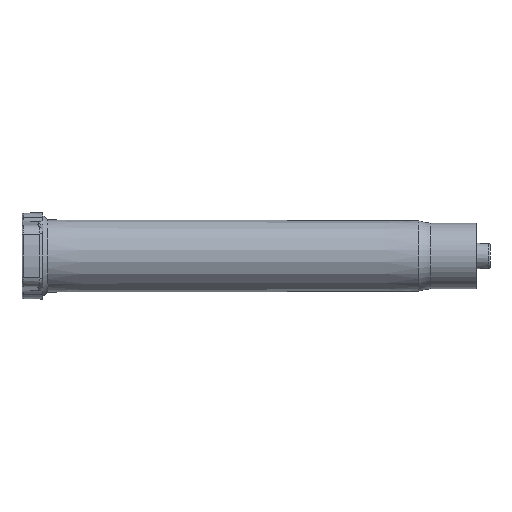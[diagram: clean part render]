
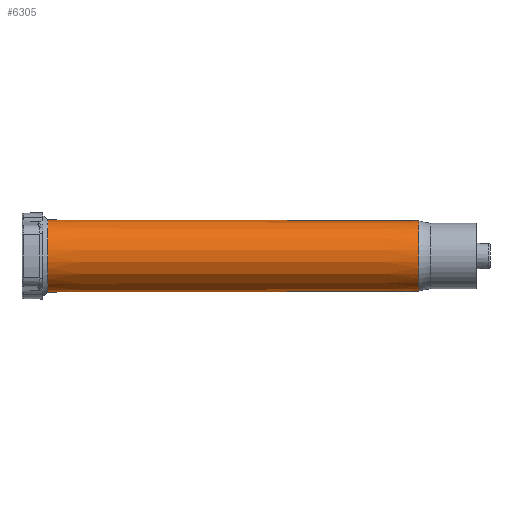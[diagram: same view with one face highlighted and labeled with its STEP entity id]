
A CAD part, front view. The second image highlights one B-rep face of the part: STEP entity #6305.
In plain terms, the highlighted conical face has half-angle 0.096 degrees and reference radius 5.65 mm.
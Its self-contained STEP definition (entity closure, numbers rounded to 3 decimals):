
#61 = EDGE_CURVE ( 'NONE', #7417, #8526, #7459, .T. ) ;
#63 = LINE ( 'NONE', #2845, #6242 ) ;
#712 = DIRECTION ( 'NONE',  ( -1., 0., -0.002 ) ) ;
#1568 = ORIENTED_EDGE ( 'NONE', *, *, #4882, .F. ) ;
#1742 = CARTESIAN_POINT ( 'NONE',  ( 4.1, 0., 0. ) ) ;
#1908 = EDGE_CURVE ( 'NONE', #6573, #7516, #5073, .T. ) ;
#1916 = DIRECTION ( 'NONE',  ( 1., 0., 0. ) ) ;
#2079 = DIRECTION ( 'NONE',  ( 0., 0., 1. ) ) ;
#2518 = CARTESIAN_POINT ( 'NONE',  ( 4.1, 0., -5.749 ) ) ;
#2664 = EDGE_CURVE ( 'NONE', #7516, #7417, #5114, .T. ) ;
#2675 = CARTESIAN_POINT ( 'NONE',  ( 63.3, 0., 5.65 ) ) ;
#2845 = CARTESIAN_POINT ( 'NONE',  ( 63.3, 0., -5.65 ) ) ;
#4382 = AXIS2_PLACEMENT_3D ( 'NONE', #1742, #1916, #6113 ) ;
#4430 = ORIENTED_EDGE ( 'NONE', *, *, #61, .T. ) ;
#4484 = CARTESIAN_POINT ( 'NONE',  ( 63.3, 0., -5.65 ) ) ;
#4556 = CARTESIAN_POINT ( 'NONE',  ( 63.3, 0., 5.65 ) ) ;
#4882 = EDGE_CURVE ( 'NONE', #6573, #8526, #63, .T. ) ;
#5073 = CIRCLE ( 'NONE', #7420, 5.65 ) ;
#5114 = LINE ( 'NONE', #4556, #6333 ) ;
#5822 = CONICAL_SURFACE ( 'NONE', #6998, 5.65, 0.002 ) ;
#5845 = DIRECTION ( 'NONE',  ( -1., 0., 0.002 ) ) ;
#6113 = DIRECTION ( 'NONE',  ( 0., 0., 1. ) ) ;
#6151 = ORIENTED_EDGE ( 'NONE', *, *, #1908, .T. ) ;
#6242 = VECTOR ( 'NONE', #712, 1000. ) ;
#6283 = FACE_OUTER_BOUND ( 'NONE', #6536, .T. ) ;
#6305 = ADVANCED_FACE ( 'NONE', ( #6283 ), #5822, .T. ) ;
#6333 = VECTOR ( 'NONE', #5845, 1000. ) ;
#6536 = EDGE_LOOP ( 'NONE', ( #1568, #6151, #7079, #4430 ) ) ;
#6573 = VERTEX_POINT ( 'NONE', #4484 ) ;
#6974 = CARTESIAN_POINT ( 'NONE',  ( 63.3, 0., 0. ) ) ;
#6998 = AXIS2_PLACEMENT_3D ( 'NONE', #6974, #9016, #2079 ) ;
#7027 = CARTESIAN_POINT ( 'NONE',  ( 63.3, 0., 0. ) ) ;
#7079 = ORIENTED_EDGE ( 'NONE', *, *, #2664, .T. ) ;
#7417 = VERTEX_POINT ( 'NONE', #8440 ) ;
#7420 = AXIS2_PLACEMENT_3D ( 'NONE', #7027, #7801, #8448 ) ;
#7459 = CIRCLE ( 'NONE', #4382, 5.749 ) ;
#7516 = VERTEX_POINT ( 'NONE', #2675 ) ;
#7801 = DIRECTION ( 'NONE',  ( -1., 0., 0. ) ) ;
#8440 = CARTESIAN_POINT ( 'NONE',  ( 4.1, 0., 5.749 ) ) ;
#8448 = DIRECTION ( 'NONE',  ( 0., 0., 1. ) ) ;
#8526 = VERTEX_POINT ( 'NONE', #2518 ) ;
#9016 = DIRECTION ( 'NONE',  ( -1., 0., 0. ) ) ;
